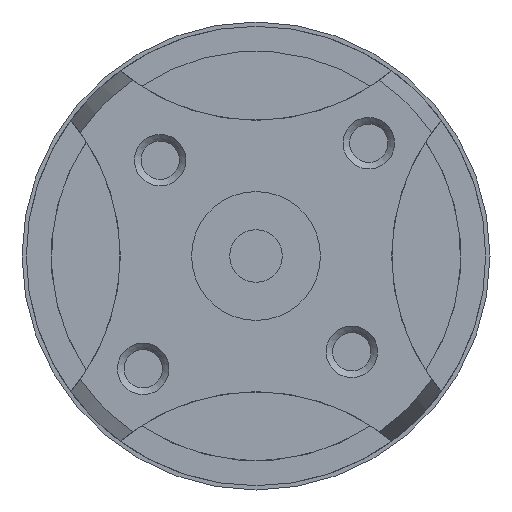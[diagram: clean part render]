
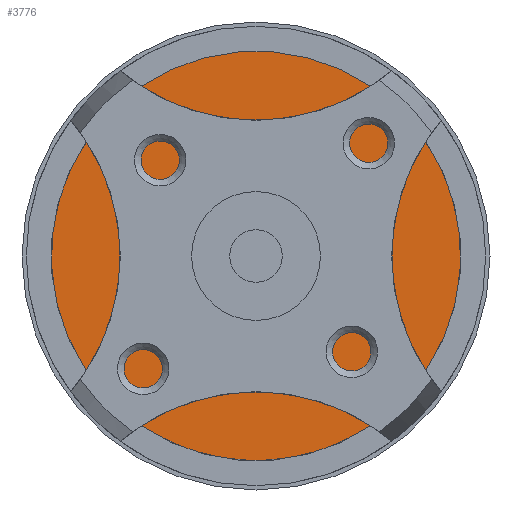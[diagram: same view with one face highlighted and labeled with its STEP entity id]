
A CAD part, front view. The second image highlights one B-rep face of the part: STEP entity #3776.
In plain terms, the highlighted planar face has unit normal (0, -1, 0).
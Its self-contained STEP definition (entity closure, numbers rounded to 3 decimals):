
#210 = CYLINDRICAL_SURFACE('',#211,12.116);
#211 = AXIS2_PLACEMENT_3D('',#212,#213,#214);
#212 = CARTESIAN_POINT('',(0.,175.718,0.));
#213 = DIRECTION('',(0.,1.,0.));
#214 = DIRECTION('',(0.,0.,1.));
#3687 = EDGE_CURVE('',#3688,#3690,#3692,.T.);
#3688 = VERTEX_POINT('',#3689);
#3689 = CARTESIAN_POINT('',(0.,179.528,-12.116));
#3690 = VERTEX_POINT('',#3691);
#3691 = CARTESIAN_POINT('',(-6.787,179.528,10.037));
#3692 = SURFACE_CURVE('',#3693,(#3698,#3705),.PCURVE_S1.);
#3693 = CIRCLE('',#3694,12.116);
#3694 = AXIS2_PLACEMENT_3D('',#3695,#3696,#3697);
#3695 = CARTESIAN_POINT('',(0.,179.528,0.));
#3696 = DIRECTION('',(0.,-1.,0.));
#3697 = DIRECTION('',(0.,0.,-1.));
#3698 = PCURVE('',#210,#3699);
#3699 = DEFINITIONAL_REPRESENTATION('',(#3700),#3704);
#3700 = LINE('',#3701,#3702);
#3701 = CARTESIAN_POINT('',(9.425,3.81));
#3702 = VECTOR('',#3703,1.);
#3703 = DIRECTION('',(-1.,0.));
#3704 = ( GEOMETRIC_REPRESENTATION_CONTEXT(2) 
PARAMETRIC_REPRESENTATION_CONTEXT() REPRESENTATION_CONTEXT('2D SPACE',''
  ) );
#3705 = PCURVE('',#3706,#3711);
#3706 = PLANE('',#3707);
#3707 = AXIS2_PLACEMENT_3D('',#3708,#3709,#3710);
#3708 = CARTESIAN_POINT('',(0.,179.528,0.));
#3709 = DIRECTION('',(0.,-1.,0.));
#3710 = DIRECTION('',(0.,0.,-1.));
#3711 = DEFINITIONAL_REPRESENTATION('',(#3712),#3716);
#3712 = CIRCLE('',#3713,12.116);
#3713 = AXIS2_PLACEMENT_2D('',#3714,#3715);
#3714 = CARTESIAN_POINT('',(0.,0.));
#3715 = DIRECTION('',(1.,0.));
#3716 = ( GEOMETRIC_REPRESENTATION_CONTEXT(2) 
PARAMETRIC_REPRESENTATION_CONTEXT() REPRESENTATION_CONTEXT('2D SPACE',''
  ) );
#3755 = EDGE_CURVE('',#3690,#3688,#3756,.T.);
#3756 = SURFACE_CURVE('',#3757,(#3762,#3769),.PCURVE_S1.);
#3757 = CIRCLE('',#3758,12.116);
#3758 = AXIS2_PLACEMENT_3D('',#3759,#3760,#3761);
#3759 = CARTESIAN_POINT('',(0.,179.528,0.));
#3760 = DIRECTION('',(0.,-1.,0.));
#3761 = DIRECTION('',(0.,0.,-1.));
#3762 = PCURVE('',#210,#3763);
#3763 = DEFINITIONAL_REPRESENTATION('',(#3764),#3768);
#3764 = LINE('',#3765,#3766);
#3765 = CARTESIAN_POINT('',(15.708,3.81));
#3766 = VECTOR('',#3767,1.);
#3767 = DIRECTION('',(-1.,0.));
#3768 = ( GEOMETRIC_REPRESENTATION_CONTEXT(2) 
PARAMETRIC_REPRESENTATION_CONTEXT() REPRESENTATION_CONTEXT('2D SPACE',''
  ) );
#3769 = PCURVE('',#3706,#3770);
#3770 = DEFINITIONAL_REPRESENTATION('',(#3771),#3775);
#3771 = CIRCLE('',#3772,12.116);
#3772 = AXIS2_PLACEMENT_2D('',#3773,#3774);
#3773 = CARTESIAN_POINT('',(0.,0.));
#3774 = DIRECTION('',(1.,0.));
#3775 = ( GEOMETRIC_REPRESENTATION_CONTEXT(2) 
PARAMETRIC_REPRESENTATION_CONTEXT() REPRESENTATION_CONTEXT('2D SPACE',''
  ) );
#3776 = ADVANCED_FACE('',(#3777),#3706,.T.);
#3777 = FACE_BOUND('',#3778,.T.);
#3778 = EDGE_LOOP('',(#3779,#3780));
#3779 = ORIENTED_EDGE('',*,*,#3687,.T.);
#3780 = ORIENTED_EDGE('',*,*,#3755,.T.);
